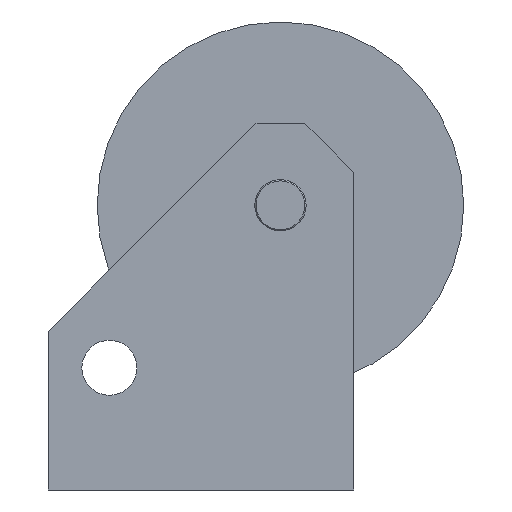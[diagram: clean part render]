
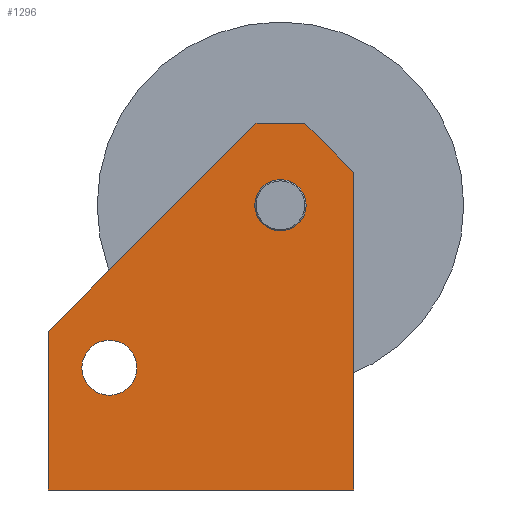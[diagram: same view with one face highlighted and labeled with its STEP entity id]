
A CAD part, left-side view. The second image highlights one B-rep face of the part: STEP entity #1296.
In plain terms, the highlighted planar face has unit normal (-1, 0, 0) as drawn and (0, -1, 0) by its records, which use the part's own axes.
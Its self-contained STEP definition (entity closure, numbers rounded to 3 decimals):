
#2 = CARTESIAN_POINT ( 'NONE',  ( 4.5, 0., 30. ) ) ;
#8 = CARTESIAN_POINT ( 'NONE',  ( 12.5, 0., 0. ) ) ;
#15 = CARTESIAN_POINT ( 'NONE',  ( 12.5, 0., 26. ) ) ;
#22 = VERTEX_POINT ( 'NONE', #921 ) ;
#55 = VECTOR ( 'NONE', #421, 1000. ) ;
#101 = CARTESIAN_POINT ( 'NONE',  ( 8.5, 0., 30. ) ) ;
#121 = CARTESIAN_POINT ( 'NONE',  ( -12.5, 0., 13. ) ) ;
#127 = VERTEX_POINT ( 'NONE', #794 ) ;
#164 = FACE_BOUND ( 'NONE', #1702, .T. ) ;
#169 = VERTEX_POINT ( 'NONE', #750 ) ;
#177 = LINE ( 'NONE', #1656, #55 ) ;
#189 = ORIENTED_EDGE ( 'NONE', *, *, #1180, .F. ) ;
#191 = ORIENTED_EDGE ( 'NONE', *, *, #619, .F. ) ;
#196 = ORIENTED_EDGE ( 'NONE', *, *, #1008, .T. ) ;
#213 = FACE_BOUND ( 'NONE', #820, .T. ) ;
#240 = VERTEX_POINT ( 'NONE', #8 ) ;
#259 = DIRECTION ( 'NONE',  ( 0., 0., -1. ) ) ;
#274 = LINE ( 'NONE', #573, #1167 ) ;
#373 = VERTEX_POINT ( 'NONE', #1413 ) ;
#375 = VECTOR ( 'NONE', #1605, 1000. ) ;
#395 = ORIENTED_EDGE ( 'NONE', *, *, #1070, .T. ) ;
#400 = EDGE_CURVE ( 'NONE', #127, #1277, #623, .T. ) ;
#414 = VERTEX_POINT ( 'NONE', #1729 ) ;
#421 = DIRECTION ( 'NONE',  ( 0., 0., -1. ) ) ;
#425 = VECTOR ( 'NONE', #964, 1000. ) ;
#482 = AXIS2_PLACEMENT_3D ( 'NONE', #1736, #1146, #606 ) ;
#491 = CARTESIAN_POINT ( 'NONE',  ( -7.5, 0., 12.25 ) ) ;
#544 = FACE_OUTER_BOUND ( 'NONE', #545, .T. ) ;
#545 = EDGE_LOOP ( 'NONE', ( #191, #815, #673, #1823, #612, #189 ) ) ;
#573 = CARTESIAN_POINT ( 'NONE',  ( 12.5, 0., 30. ) ) ;
#603 = DIRECTION ( 'NONE',  ( -0.707, 0., -0.707 ) ) ;
#606 = DIRECTION ( 'NONE',  ( 0., 0., 1. ) ) ;
#612 = ORIENTED_EDGE ( 'NONE', *, *, #1733, .T. ) ;
#615 = PLANE ( 'NONE',  #482 ) ;
#619 = EDGE_CURVE ( 'NONE', #169, #240, #177, .T. ) ;
#623 = LINE ( 'NONE', #2, #1622 ) ;
#646 = CIRCLE ( 'NONE', #895, 2.25 ) ;
#670 = VECTOR ( 'NONE', #259, 1000. ) ;
#673 = ORIENTED_EDGE ( 'NONE', *, *, #768, .T. ) ;
#692 = DIRECTION ( 'NONE',  ( 0., 0., 1. ) ) ;
#750 = CARTESIAN_POINT ( 'NONE',  ( 12.5, 0., 26. ) ) ;
#759 = ORIENTED_EDGE ( 'NONE', *, *, #1710, .T. ) ;
#768 = EDGE_CURVE ( 'NONE', #1778, #127, #274, .T. ) ;
#788 = DIRECTION ( 'NONE',  ( 0., 0., 1. ) ) ;
#794 = CARTESIAN_POINT ( 'NONE',  ( 4.5, 0., 30. ) ) ;
#811 = DIRECTION ( 'NONE',  ( 0., 0., 1. ) ) ;
#815 = ORIENTED_EDGE ( 'NONE', *, *, #1254, .T. ) ;
#820 = EDGE_LOOP ( 'NONE', ( #759, #1353 ) ) ;
#875 = EDGE_CURVE ( 'NONE', #373, #1390, #1326, .T. ) ;
#895 = AXIS2_PLACEMENT_3D ( 'NONE', #1784, #908, #1051 ) ;
#908 = DIRECTION ( 'NONE',  ( 0., 1., 0. ) ) ;
#921 = CARTESIAN_POINT ( 'NONE',  ( -7.5, 0., 7.75 ) ) ;
#930 = AXIS2_PLACEMENT_3D ( 'NONE', #1096, #946, #811 ) ;
#946 = DIRECTION ( 'NONE',  ( 0., 1., 0. ) ) ;
#953 = LINE ( 'NONE', #15, #375 ) ;
#960 = CARTESIAN_POINT ( 'NONE',  ( 6.5, 0., 25.4 ) ) ;
#964 = DIRECTION ( 'NONE',  ( -1., 0., 0. ) ) ;
#1008 = EDGE_CURVE ( 'NONE', #22, #1091, #1826, .T. ) ;
#1036 = LINE ( 'NONE', #1089, #670 ) ;
#1051 = DIRECTION ( 'NONE',  ( 0., 0., 1. ) ) ;
#1070 = EDGE_CURVE ( 'NONE', #1091, #22, #646, .T. ) ;
#1089 = CARTESIAN_POINT ( 'NONE',  ( -12.5, 0., 0. ) ) ;
#1091 = VERTEX_POINT ( 'NONE', #491 ) ;
#1096 = CARTESIAN_POINT ( 'NONE',  ( 6.5, 0., 23.3 ) ) ;
#1146 = DIRECTION ( 'NONE',  ( 0., 1., 0. ) ) ;
#1167 = VECTOR ( 'NONE', #1542, 1000. ) ;
#1180 = EDGE_CURVE ( 'NONE', #240, #414, #1704, .T. ) ;
#1254 = EDGE_CURVE ( 'NONE', #169, #1778, #953, .T. ) ;
#1267 = CARTESIAN_POINT ( 'NONE',  ( 6.5, 0., 23.3 ) ) ;
#1277 = VERTEX_POINT ( 'NONE', #121 ) ;
#1296 = ADVANCED_FACE ( 'NONE', ( #164, #213, #544 ), #615, .F. ) ;
#1326 = CIRCLE ( 'NONE', #1497, 2.1 ) ;
#1353 = ORIENTED_EDGE ( 'NONE', *, *, #875, .T. ) ;
#1390 = VERTEX_POINT ( 'NONE', #960 ) ;
#1413 = CARTESIAN_POINT ( 'NONE',  ( 6.5, 0., 21.2 ) ) ;
#1497 = AXIS2_PLACEMENT_3D ( 'NONE', #1267, #1550, #692 ) ;
#1511 = CARTESIAN_POINT ( 'NONE',  ( -7.5, 0., 10. ) ) ;
#1521 = CARTESIAN_POINT ( 'NONE',  ( 12.5, 0., 0. ) ) ;
#1542 = DIRECTION ( 'NONE',  ( -1., 0., 0. ) ) ;
#1550 = DIRECTION ( 'NONE',  ( 0., 1., 0. ) ) ;
#1605 = DIRECTION ( 'NONE',  ( -0.707, 0., 0.707 ) ) ;
#1616 = AXIS2_PLACEMENT_3D ( 'NONE', #1511, #1650, #788 ) ;
#1622 = VECTOR ( 'NONE', #603, 1000. ) ;
#1650 = DIRECTION ( 'NONE',  ( 0., 1., 0. ) ) ;
#1656 = CARTESIAN_POINT ( 'NONE',  ( 12.5, 0., 0. ) ) ;
#1702 = EDGE_LOOP ( 'NONE', ( #395, #196 ) ) ;
#1704 = LINE ( 'NONE', #1521, #425 ) ;
#1710 = EDGE_CURVE ( 'NONE', #1390, #373, #1724, .T. ) ;
#1724 = CIRCLE ( 'NONE', #930, 2.1 ) ;
#1729 = CARTESIAN_POINT ( 'NONE',  ( -12.5, 0., 0. ) ) ;
#1733 = EDGE_CURVE ( 'NONE', #1277, #414, #1036, .T. ) ;
#1736 = CARTESIAN_POINT ( 'NONE',  ( 12.5, 0., 0. ) ) ;
#1778 = VERTEX_POINT ( 'NONE', #101 ) ;
#1784 = CARTESIAN_POINT ( 'NONE',  ( -7.5, 0., 10. ) ) ;
#1823 = ORIENTED_EDGE ( 'NONE', *, *, #400, .T. ) ;
#1826 = CIRCLE ( 'NONE', #1616, 2.25 ) ;
